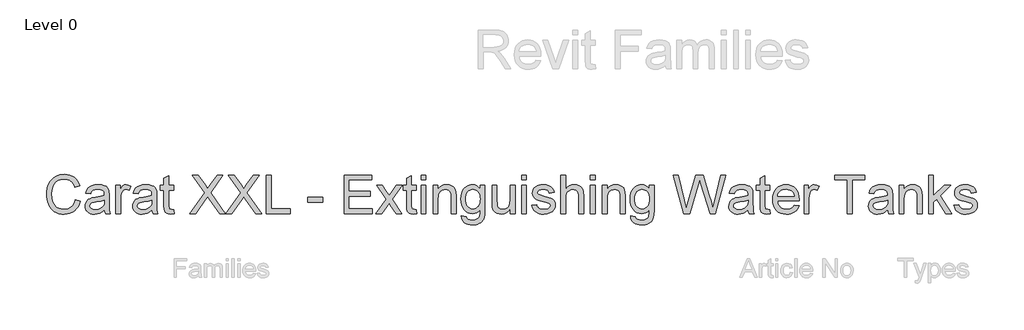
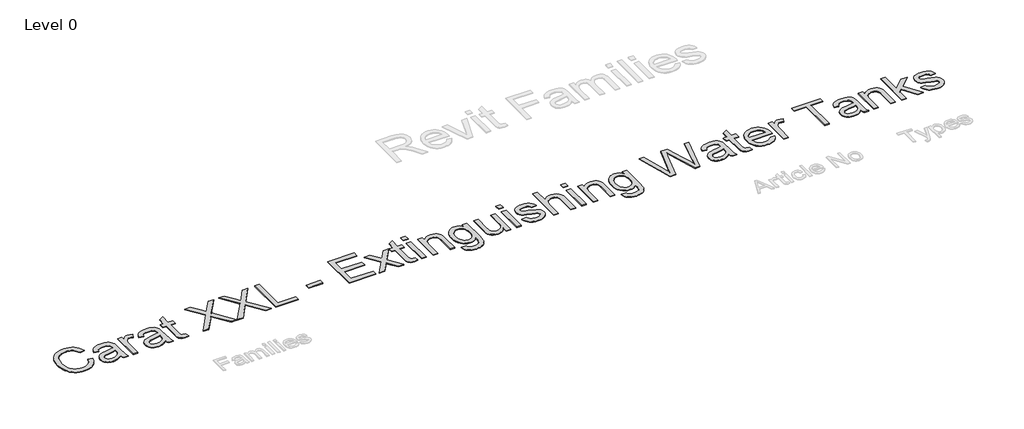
# One storey, part 35 of 37: 1 proxy.
"""IFC4 building model written with IfcOpenShell, lengths in millimetres."""

from ifc_helpers import new_model, si_unit, origin, origin_with_axes, place, context, project, spatial, polyline, outline, extrude, element, save

model = new_model("IFC4")

# Units and contexts
model_context = context("Model", 3, world=origin())
ifc_project = project(units=[si_unit("LENGTHUNIT", "METRE", prefix="MILLI")], contexts=[model_context])

# Site, building, storey
site = spatial("IfcSite", under=ifc_project)
building = spatial("IfcBuilding", under=site)
storey = spatial("IfcBuildingStorey", under=building, Name="Level 0", Elevation=0.0)

# Proxy
placement = place(None, origin())
element("IfcBuildingElementProxy", 1, Name="600mm Arial", ObjectType="600mm Arial", at=placement, inside=storey, context=model_context, shape_type="SweptSolid", body=[
    extrude(outline(polyline([(-16925.4984397, 1868.0819293), (-16850.1562071, 1848.65776), (-16865.0646249, 1801.8033894), (-16884.9210556, 1760.8627218), (-16909.7254991, 1725.8357574), (-16939.4779555, 1696.722496), (-16973.50704, 1673.8356373), (-17011.1413681, 1657.4878812), (-17052.3809398, 1647.6792275), (-17097.225755, 1644.4096763), (-17143.1696177, 1646.8836827), (-17184.616123, 1654.3057019), (-17221.5652709, 1666.675734), (-17254.0170614, 1683.9937789), (-17282.4175514, 1706.0023193), (-17307.2127979, 1732.4438377), (-17328.4028008, 1763.3183341), (-17345.9875602, 1798.6258086), (-17359.7969306, 1836.8395509), (-17369.6607665, 1876.4328506), (-17375.5790681, 1917.4057078), (-17377.5518353, 1959.7581225), (-17375.3215507, 2005.200746), (-17368.630697, 2047.6451312), (-17357.479274, 2087.0912781), (-17341.8672818, 2123.5391868), (-17322.1442083, 2156.3864504), (-17298.6595415, 2185.0306623), (-17271.4132812, 2209.4718223), (-17240.4054275, 2229.7099306), (-17206.6890427, 2245.5794402), (-17171.3171888, 2256.9148041), (-17134.289866, 2263.7160225), (-17095.6070742, 2265.9830953), (-17052.514297, 2263.0492364), (-17012.9991722, 2254.2476597), (-16977.0616998, 2239.5783651), (-16944.7018798, 2219.0413527), (-16916.4531411, 2193.1792485), (-16892.8489126, 2162.5346783), (-16873.8891943, 2127.1076421), (-16859.5739861, 2086.8981401), (-16934.9162187, 2068.9454987), (-16946.7804131, 2098.5737949), (-16961.0358404, 2123.8886747), (-16977.6825007, 2144.8901381), (-16996.7203939, 2161.5781851), (-17018.2598848, 2174.2931065), (-17042.4113377, 2183.3751933), (-17069.1747529, 2188.8244453), (-17098.5501302, 2190.6408627), (-17132.3492885, 2188.6267088), (-17163.2605732, 2182.584247), (-17191.2839841, 2172.5134774), (-17216.4195215, 2158.4143999), (-17238.3498869, 2140.921611), (-17256.7577822, 2120.6697072), (-17271.6432075, 2097.6586884), (-17283.0061626, 2071.8885547), (-17297.4087427, 2016.7430436), (-17302.2096027, 1959.9052753), (-17296.5258259, 1890.3020018), (-17289.4211049, 1859.0320322), (-17279.4744954, 1830.1165074), (-17266.5250492, 1804.130243), (-17250.4118178, 1781.6480546), (-17231.1348013, 1762.6699421), (-17208.6939996, 1747.1959057), (-17184.1792631, 1735.1891571), (-17158.6804423, 1726.6129081), (-17132.1975372, 1721.4671587), (-17104.7305477, 1719.7519089), (-17071.9752546, 1722.0879595), (-17041.8411206, 1729.0961115), (-17014.3281459, 1740.7763649), (-16989.4363304, 1757.1287196), (-16967.7542853, 1778.0795992), (-16949.8706219, 1803.5554274), (-16935.78534, 1833.5562041), (-16925.4984397, 1868.0819293)])), origin_with_axes(), (0.0, 0.0, 1.0), 10.0),
    extrude(outline(polyline([(-16473.445044, 1710.3341298), (-16509.4422972, 1679.4688304), (-16546.5064082, 1659.2721089), (-16585.4835056, 1648.1252844), (-16627.219718, 1644.4096763), (-16660.7659574, 1646.6445594), (-16690.1827215, 1653.3492087), (-16715.4700101, 1664.5236243), (-16736.6278233, 1680.1678062), (-16753.3342645, 1699.2884729), (-16765.2674367, 1720.8923431), (-16772.42734, 1744.9794167), (-16774.8139744, 1771.5496938), (-16771.2087309, 1802.7828752), (-16760.3930002, 1831.146577), (-16743.7095518, 1855.4267887), (-16722.5011547, 1874.4094996), (-16697.5771496, 1888.7568975), (-16669.7468766, 1899.1311697), (-16604.5581871, 1910.4619352), (-16527.5236973, 1922.3813118), (-16473.8865024, 1936.3608276), (-16473.445044, 1953.1362466), (-16478.6321801, 1986.760661), (-16485.1161003, 1999.2134665), (-16494.1935885, 2008.7600043), (-16509.8837556, 2018.288148), (-16528.9952253, 2025.0939649), (-16577.4820722, 2030.5386184), (-16622.3636756, 2026.9149807), (-16653.7072216, 2016.0440678), (-16675.0811656, 1995.9393167), (-16690.0539628, 1964.6141649), (-16765.3961954, 1974.0319439), (-16752.3179904, 2015.2347274), (-16732.8018506, 2047.608343), (-16705.02676, 2072.3668012), (-16667.1717027, 2090.7241128), (-16620.8737536, 2102.0916665), (-16567.7699876, 2105.880851), (-16516.8367253, 2102.5331249), (-16476.4616764, 2092.4899464), (-16446.0194413, 2077.3883905), (-16424.8846206, 2058.865532), (-16410.8683166, 2035.9648778), (-16401.7816313, 2007.7299347), (-16398.1028114, 1941.8054812), (-16398.1028114, 1848.0691488), (-16394.2768386, 1717.1767349), (-16388.6114559, 1684.8215134), (-16379.2672532, 1653.8274553), (-16454.6094858, 1653.8274553), (-16466.6760153, 1680.0206534), (-16473.445044, 1710.3341298)]), holes=[polyline([(-16473.445044, 1861.018595), (-16524.0656065, 1848.473819), (-16594.9932552, 1837.9156057), (-16659.8140628, 1825.7019235), (-16676.6814522, 1817.3510022), (-16689.171046, 1805.8362957), (-16696.8965679, 1792.0407209), (-16699.4717418, 1776.8471945), (-16693.8615414, 1754.443181), (-16677.0309401, 1736.0858695), (-16649.34782, 1723.835399), (-16611.180063, 1719.7519089), (-16570.7130435, 1724.2584633), (-16534.9549136, 1737.7781266), (-16505.9658124, 1757.6989367), (-16485.805879, 1781.4089313), (-16476.8663466, 1805.8362957), (-16473.8865024, 1839.6814393), (-16473.445044, 1861.018595)])]), origin_with_axes(), (0.0, 0.0, 1.0), 10.0),
    extrude(outline(polyline([(-16294.5072415, 1653.8274553), (-16294.5072415, 2096.4630719), (-16228.582788, 2096.4630719), (-16228.582788, 2030.9800768), (-16204.2289999, 2068.9454987), (-16181.7881982, 2091.312724), (-16159.2738201, 2102.2388193), (-16134.6993028, 2105.880851), (-16097.1753393, 2100.0683155), (-16059.0627646, 2082.6307089), (-16084.2258931, 2015.0875746), (-16110.7133968, 2026.6758574), (-16137.2009004, 2030.5386184), (-16159.6968844, 2026.8230102), (-16179.8016354, 2015.6761858), (-16196.0436255, 1997.9442736), (-16206.9513267, 1974.4734023), (-16216.1115884, 1932.3877021), (-16219.1650089, 1886.4760291), (-16219.1650089, 1653.8274553), (-16294.5072415, 1653.8274553)])), origin_with_axes(), (0.0, 0.0, 1.0), 10.0),
    extrude(outline(polyline([(-15729.440497, 1710.3341298), (-15765.4377502, 1679.4688304), (-15802.5018612, 1659.2721089), (-15841.4789586, 1648.1252844), (-15883.2151709, 1644.4096763), (-15916.7614104, 1646.6445594), (-15946.1781744, 1653.3492087), (-15971.4654631, 1664.5236243), (-15992.6232763, 1680.1678062), (-16009.3297174, 1699.2884729), (-16021.2628896, 1720.8923431), (-16028.422793, 1744.9794167), (-16030.8094274, 1771.5496938), (-16027.2041838, 1802.7828752), (-16016.3884532, 1831.146577), (-15999.7050047, 1855.4267887), (-15978.4966077, 1874.4094996), (-15953.5726025, 1888.7568975), (-15925.7423296, 1899.1311697), (-15860.55364, 1910.4619352), (-15783.5191502, 1922.3813118), (-15729.8819553, 1936.3608276), (-15729.440497, 1953.1362466), (-15734.6276331, 1986.760661), (-15741.1115533, 1999.2134665), (-15750.1890415, 2008.7600043), (-15765.8792086, 2018.288148), (-15784.9906782, 2025.0939649), (-15833.4775252, 2030.5386184), (-15878.3591286, 2026.9149807), (-15909.7026746, 2016.0440678), (-15931.0766185, 1995.9393167), (-15946.0494157, 1964.6141649), (-16021.3916483, 1974.0319439), (-16008.3134434, 2015.2347274), (-15988.7973036, 2047.608343), (-15961.0222129, 2072.3668012), (-15923.1671556, 2090.7241128), (-15876.8692065, 2102.0916665), (-15823.7654405, 2105.880851), (-15772.8321783, 2102.5331249), (-15732.4571293, 2092.4899464), (-15702.0148942, 2077.3883905), (-15680.8800736, 2058.865532), (-15666.8637696, 2035.9648778), (-15657.7770843, 2007.7299347), (-15654.0982643, 1941.8054812), (-15654.0982643, 1848.0691488), (-15650.2722916, 1717.1767349), (-15644.6069089, 1684.8215134), (-15635.2627062, 1653.8274553), (-15710.6049388, 1653.8274553), (-15722.6714682, 1680.0206534), (-15729.440497, 1710.3341298)]), holes=[polyline([(-15729.440497, 1861.018595), (-15780.0610595, 1848.473819), (-15850.9887082, 1837.9156057), (-15915.8095157, 1825.7019235), (-15932.6769052, 1817.3510022), (-15945.1664989, 1805.8362957), (-15952.8920208, 1792.0407209), (-15955.4671948, 1776.8471945), (-15949.8569944, 1754.443181), (-15933.0263931, 1736.0858695), (-15905.3432729, 1723.835399), (-15867.1755159, 1719.7519089), (-15826.7084965, 1724.2584633), (-15790.9503665, 1737.7781266), (-15761.9612653, 1757.6989367), (-15741.801332, 1781.4089313), (-15732.8617995, 1805.8362957), (-15729.8819553, 1839.6814393), (-15729.440497, 1861.018595)])]), origin_with_axes(), (0.0, 0.0, 1.0), 10.0),
    extrude(outline(polyline([(-15390.4004502, 1716.6617001), (-15380.9826711, 1651.6201634), (-15437.3421928, 1644.4096763), (-15473.5049929, 1647.5366732), (-15500.4707432, 1656.9176641), (-15519.5270305, 1671.3754265), (-15531.9614419, 1689.7327381), (-15538.8040471, 1721.2602251), (-15541.0849154, 1775.2285137), (-15541.0849154, 2021.1208393), (-15597.5915899, 2021.1208393), (-15597.5915899, 2096.4630719), (-15541.0849154, 2096.4630719), (-15541.0849154, 2204.0317673), (-15465.7426828, 2248.3247595), (-15465.7426828, 2096.4630719), (-15390.4004502, 2096.4630719), (-15390.4004502, 2021.1208393), (-15465.7426828, 2021.1208393), (-15465.7426828, 1777.4358057), (-15461.7695573, 1738.587467), (-15448.8936874, 1724.8286804), (-15438.0227745, 1721.0211018), (-15423.2155242, 1719.7519089), (-15390.4004502, 1716.6617001)])), origin_with_axes(), (0.0, 0.0, 1.0), 10.0),
    extrude(outline(polyline([(-15136.1204151, 1653.8274553), (-14903.766147, 1982.2725006), (-15098.4492988, 2256.5653162), (-15008.0974808, 2256.5653162), (-14898.4686462, 2102.2020311), (-14872.3122364, 2063.096175), (-14861.5332939, 2042.0165366), (-14818.2703713, 2103.2321006), (-14709.8187591, 2256.5653162), (-14618.1425659, 2256.5653162), (-14812.8257178, 1981.3895838), (-14580.4714496, 1653.8274553), (-14670.8232676, 1653.8274553), (-14825.6280112, 1872.2022077), (-14857.854474, 1917.5252695), (-14893.3182983, 1867.7876237), (-15044.4442219, 1653.8274553), (-15136.1204151, 1653.8274553)])), origin_with_axes(), (0.0, 0.0, 1.0), 10.0),
    extrude(outline(polyline([(-14571.0536705, 1653.8274553), (-14338.6994024, 1982.2725006), (-14533.3825542, 2256.5653162), (-14443.0307362, 2256.5653162), (-14333.4019017, 2102.2020311), (-14307.2454918, 2063.096175), (-14296.4665493, 2042.0165366), (-14253.2036267, 2103.2321006), (-14144.7520145, 2256.5653162), (-14053.0758213, 2256.5653162), (-14247.7589732, 1981.3895838), (-14015.404705, 1653.8274553), (-14105.756523, 1653.8274553), (-14260.5612666, 1872.2022077), (-14292.7877294, 1917.5252695), (-14328.2515537, 1867.7876237), (-14479.3774773, 1653.8274553), (-14571.0536705, 1653.8274553)])), origin_with_axes(), (0.0, 0.0, 1.0), 10.0),
    extrude(outline(polyline([(-13940.0624724, 1653.8274553), (-13940.0624724, 2256.5653162), (-13864.7202398, 2256.5653162), (-13864.7202398, 1729.1696879), (-13563.3513094, 1729.1696879), (-13563.3513094, 1653.8274553), (-13940.0624724, 1653.8274553)])), origin_with_axes(), (0.0, 0.0, 1.0), 10.0),
    extrude(outline(polyline([(-13290.2357161, 1832.7652578), (-13290.2357161, 1908.1074904), (-13054.7912392, 1908.1074904), (-13054.7912392, 1832.7652578), (-13290.2357161, 1832.7652578)])), origin_with_axes(), (0.0, 0.0, 1.0), 10.0),
    extrude(outline(polyline([(-12725.1689715, 1653.8274553), (-12725.1689715, 2256.5653162), (-12291.951134, 2256.5653162), (-12291.951134, 2181.2230836), (-12649.8267389, 2181.2230836), (-12649.8267389, 2002.2852812), (-12310.7866922, 2002.2852812), (-12310.7866922, 1926.9430486), (-12649.8267389, 1926.9430486), (-12649.8267389, 1729.1696879), (-12282.5333549, 1729.1696879), (-12282.5333549, 1653.8274553), (-12725.1689715, 1653.8274553)])), origin_with_axes(), (0.0, 0.0, 1.0), 10.0),
    extrude(outline(polyline([(-12226.0266805, 1653.8274553), (-12065.0415194, 1876.322486), (-12216.6089014, 2096.4630719), (-12125.9627778, 2096.4630719), (-12052.8278372, 1990.5130573), (-12018.688388, 1940.481106), (-11989.1106756, 1981.3895838), (-11905.8221919, 2096.4630719), (-11815.1760683, 2096.4630719), (-11974.3953958, 1876.322486), (-11821.0621802, 1653.8274553), (-11911.7083038, 1653.8274553), (-12003.9731082, 1787.5893488), (-12020.89568, 1812.0167133), (-12135.3805569, 1653.8274553), (-12226.0266805, 1653.8274553)])), origin_with_axes(), (0.0, 0.0, 1.0), 10.0),
    extrude(outline(polyline([(-11595.0354824, 1716.6617001), (-11585.6177033, 1651.6201634), (-11641.9772249, 1644.4096763), (-11678.1400251, 1647.5366732), (-11705.1057753, 1656.9176641), (-11724.1620627, 1671.3754265), (-11736.5964741, 1689.7327381), (-11743.4390792, 1721.2602251), (-11745.7199476, 1775.2285137), (-11745.7199476, 2021.1208393), (-11802.226622, 2021.1208393), (-11802.226622, 2096.4630719), (-11745.7199476, 2096.4630719), (-11745.7199476, 2204.0317673), (-11670.377715, 2248.3247595), (-11670.377715, 2096.4630719), (-11595.0354824, 2096.4630719), (-11595.0354824, 2021.1208393), (-11670.377715, 2021.1208393), (-11670.377715, 1777.4358057), (-11666.4045894, 1738.587467), (-11653.5287196, 1724.8286804), (-11642.6578066, 1721.0211018), (-11627.8505563, 1719.7519089), (-11595.0354824, 1716.6617001)])), origin_with_axes(), (0.0, 0.0, 1.0), 10.0),
    extrude(outline(polyline([(-11519.6932497, 1653.8274553), (-11519.6932497, 2096.4630719), (-11444.3510171, 2096.4630719), (-11444.3510171, 1653.8274553), (-11519.6932497, 1653.8274553)])), origin_with_axes(), (0.0, 0.0, 1.0), 10.0),
    extrude(outline(polyline([(-11519.6932497, 2181.2230836), (-11519.6932497, 2256.5653162), (-11444.3510171, 2256.5653162), (-11444.3510171, 2181.2230836), (-11519.6932497, 2181.2230836)])), origin_with_axes(), (0.0, 0.0, 1.0), 10.0),
    extrude(outline(polyline([(-11331.3376682, 1653.8274553), (-11331.3376682, 2096.4630719), (-11255.9954356, 2096.4630719), (-11255.9954356, 2034.6588967), (-11229.8206316, 2065.8185017), (-11198.3851152, 2088.0753624), (-11161.6888861, 2101.4294789), (-11119.7319446, 2105.880851), (-11082.5942572, 2102.2940016), (-11048.5835667, 2091.5334532), (-11020.2198649, 2074.9419752), (-11000.0231434, 2053.8623369), (-10986.319539, 2028.3497205), (-10977.4351889, 1998.4593084), (-10973.4620633, 1925.6186734), (-10973.4620633, 1653.8274553), (-11048.8042959, 1653.8274553), (-11048.8042959, 1915.4651303), (-11050.9747997, 1954.4238336), (-11057.486311, 1982.1253478), (-11069.4976581, 2001.9725815), (-11088.1676694, 2017.368443), (-11112.0983932, 2027.2460745), (-11139.8918779, 2030.5386184), (-11162.7695395, 2028.6900114), (-11184.0193232, 2023.1441903), (-11203.6412292, 2013.9011552), (-11221.6352573, 2000.960906), (-11236.6678353, 1982.8519148), (-11247.405391, 1958.1026535), (-11253.8479245, 1926.7131223), (-11255.9954356, 1888.6833211), (-11255.9954356, 1653.8274553), (-11331.3376682, 1653.8274553)])), origin_with_axes(), (0.0, 0.0, 1.0), 10.0),
    extrude(outline(polyline([(-10888.7020516, 1616.156339), (-10813.359819, 1606.73856), (-10805.0456859, 1583.1941123), (-10788.9324545, 1567.0073045), (-10757.2578147, 1554.4257402), (-10715.7975139, 1550.2318855), (-10671.5780981, 1554.9775632), (-10653.7174272, 1560.9096604), (-10638.6894477, 1569.2145964), (-10615.880764, 1592.0232801), (-10601.9012482, 1622.4839093), (-10597.817758, 1654.8943131), (-10596.7509002, 1710.3341298), (-10621.8220582, 1685.6124597), (-10649.799484, 1667.9541239), (-10680.6831774, 1657.3591225), (-10714.4731387, 1653.8274553), (-10755.7816882, 1657.9385366), (-10792.151422, 1670.2717805), (-10823.5823399, 1690.827187), (-10850.0744421, 1719.6047561), (-10871.0942996, 1754.1304813), (-10886.1084836, 1791.9303563), (-10895.1169939, 1833.0043811), (-10898.1198307, 1877.3525556), (-10892.7303595, 1938.1818435), (-10876.5619458, 1994.1183009), (-10864.5781898, 2019.3412102), (-10850.1848067, 2041.519896), (-10833.3817966, 2060.6543582), (-10814.1691594, 2076.744597), (-10792.8549963, 2089.4917081), (-10769.7474085, 2098.5967875), (-10744.8463959, 2104.0598351), (-10718.1519587, 2105.880851), (-10682.9180606, 2101.7605727), (-10650.9399181, 2089.3997376), (-10622.2175314, 2068.7983459), (-10596.7509002, 2039.9563975), (-10596.7509002, 2096.4630719), (-10521.4086676, 2096.4630719), (-10521.4086676, 1714.3072553), (-10526.5590156, 1626.0707588), (-10532.9969505, 1593.2510863), (-10542.0100594, 1567.9637977), (-10553.8144729, 1547.5693396), (-10568.6263217, 1529.4281587), (-10586.4456059, 1513.540255), (-10607.2723253, 1499.9056286), (-10630.8949479, 1488.9611392), (-10657.1019416, 1481.1436468), (-10685.8933062, 1476.4531514), (-10717.2690419, 1474.8896529), (-10754.1814016, 1477.0923463), (-10787.368956, 1483.7004267), (-10816.8317053, 1494.7138939), (-10842.5696494, 1510.132748), (-10863.3595807, 1529.9753831), (-10877.9782915, 1554.2601933), (-10886.4257818, 1582.9871786), (-10888.7020516, 1616.156339)]), holes=[polyline([(-10822.7775981, 1882.5029035), (-10820.7680427, 1845.250253), (-10814.7393765, 1813.3962707), (-10804.6915995, 1786.9409568), (-10790.6247117, 1765.8843111), (-10773.5227975, 1749.8216635), (-10754.3699411, 1738.3483437), (-10733.1661426, 1731.4643519), (-10709.911402, 1729.1696879), (-10686.8865876, 1731.4505563), (-10665.7839566, 1738.2931614), (-10646.6035091, 1749.6975033), (-10629.345245, 1765.6635819), (-10615.0852192, 1786.5132939), (-10604.8994864, 1812.5685363), (-10598.7880468, 1843.8293088), (-10596.7509002, 1880.2956116), (-10598.8478276, 1915.2398026), (-10605.1386097, 1945.6130598), (-10615.6232466, 1971.4153832), (-10630.3017382, 1992.6467729), (-10647.9324828, 2009.2244553), (-10667.2738787, 2021.065657), (-10688.3259259, 2028.1703781), (-10711.0886243, 2030.5386184), (-10733.4696452, 2028.2071663), (-10754.1124237, 2021.2128098), (-10773.0169597, 2009.5555491), (-10790.1832533, 1993.2353841), (-10804.4432791, 1972.3258912), (-10814.6290119, 1946.9006468), (-10820.7404515, 1916.9596509), (-10822.7775981, 1882.5029035)])]), origin_with_axes(), (0.0, 0.0, 1.0), 10.0),
    extrude(outline(polyline([(-10125.8619464, 1653.8274553), (-10125.8619464, 1729.9054519), (-10153.1220023, 1692.5010501), (-10184.8702184, 1665.7836202), (-10221.106595, 1649.7531622), (-10261.8311318, 1644.4096763), (-10298.5273609, 1648.1620726), (-10332.6852041, 1659.4192617), (-10361.3432115, 1676.3418334), (-10381.5399331, 1697.090378), (-10395.1331728, 1722.2902946), (-10403.9807348, 1752.5669828), (-10408.3953187, 1822.6117147), (-10408.3953187, 2096.4630719), (-10333.0530861, 2096.4630719), (-10333.0530861, 1858.0755391), (-10331.9126519, 1810.3980325), (-10328.4913494, 1781.2617785), (-10317.5100718, 1755.6387975), (-10298.6929078, 1736.1594459), (-10273.290656, 1723.8537931), (-10242.5541153, 1719.7519089), (-10210.051741, 1723.9457636), (-10179.6462941, 1736.5273279), (-10154.5751361, 1756.3377733), (-10138.0756287, 1782.2182717), (-10128.915367, 1817.6637019), (-10125.8619464, 1866.168943), (-10125.8619464, 2096.4630719), (-10050.5197138, 2096.4630719), (-10050.5197138, 1653.8274553), (-10125.8619464, 1653.8274553)])), origin_with_axes(), (0.0, 0.0, 1.0), 10.0),
    extrude(outline(polyline([(-9946.924144, 2181.2230836), (-9946.924144, 2256.5653162), (-9871.5819114, 2256.5653162), (-9871.5819114, 2181.2230836), (-9946.924144, 2181.2230836)])), origin_with_axes(), (0.0, 0.0, 1.0), 10.0),
    extrude(outline(polyline([(-9946.924144, 1653.8274553), (-9946.924144, 2096.4630719), (-9871.5819114, 2096.4630719), (-9871.5819114, 1653.8274553), (-9946.924144, 1653.8274553)])), origin_with_axes(), (0.0, 0.0, 1.0), 10.0),
    extrude(outline(polyline([(-9786.8218997, 1785.6763624), (-9711.4796671, 1795.0941415), (-9706.9271274, 1777.9140523), (-9699.5970786, 1762.8676787), (-9689.4895208, 1749.9550207), (-9676.6044539, 1739.1760782), (-9660.9050898, 1730.6780041), (-9642.3546402, 1724.6079512), (-9596.7004846, 1719.7519089), (-9551.5981519, 1724.203281), (-9534.0685749, 1729.7674962), (-9519.886724, 1737.5573974), (-9501.1247422, 1756.9079904), (-9496.4342468, 1767.7421151), (-9494.8707483, 1779.3487921), (-9496.4434438, 1789.5207293), (-9501.1615304, 1798.5522322), (-9520.0338768, 1813.1939356), (-9548.2504258, 1822.7588675), (-9597.5834013, 1834.6782442), (-9666.3405462, 1854.562266), (-9711.0382087, 1871.5400201), (-9739.7513984, 1890.0628785), (-9760.5551252, 1914.5822135), (-9773.1918717, 1943.5345265), (-9777.4041206, 1975.3563191), (-9774.0196062, 2004.5477554), (-9763.8660632, 2031.4951116), (-9747.8631964, 2055.1315298), (-9726.9307109, 2074.3901522), (-9706.126984, 2086.511864), (-9679.0324751, 2096.6838011), (-9647.7073232, 2103.5815885), (-9614.2116675, 2105.880851), (-9565.1729976, 2102.183637), (-9522.5354743, 2091.0919948), (-9488.2488724, 2073.6911764), (-9464.2629663, 2051.0664337), (-9448.3704641, 2021.5439036), (-9438.3640738, 1983.449723), (-9513.7063064, 1974.0319439), (-9523.216056, 1997.7419385), (-9542.0332201, 2015.6026094), (-9570.3417396, 2026.8046161), (-9608.3255556, 2030.5386184), (-9651.5884782, 2026.970163), (-9680.4304267, 2016.264797), (-9696.6540226, 2000.8137532), (-9702.061888, 1983.0082646), (-9699.8178078, 1971.4199818), (-9693.0855673, 1961.0824977), (-9681.5708608, 1951.8486596), (-9664.9793829, 1944.4542315), (-9600.0849989, 1928.4145765), (-9489.4996712, 1892.9507522), (-9460.2898407, 1875.9913922), (-9438.1433446, 1852.7780383), (-9424.1822229, 1823.2371141), (-9419.5285157, 1787.2950432), (-9424.9915633, 1750.1389617), (-9441.3807062, 1715.1901721), (-9468.0705449, 1685.1893954), (-9504.4356802, 1662.8773524), (-9548.3607904, 1649.0265953), (-9597.7305541, 1644.4096763), (-9638.2803471, 1646.6353623), (-9673.6981861, 1653.3124205), (-9703.9840714, 1664.4408509), (-9729.1380028, 1680.0206534), (-9749.6842123, 1699.9782516), (-9766.1469315, 1724.2400692), (-9778.5261607, 1752.8061061), (-9786.8218997, 1785.6763624)])), origin_with_axes(), (0.0, 0.0, 1.0), 10.0),
    extrude(outline(polyline([(-9334.768504, 1653.8274553), (-9334.768504, 2256.5653162), (-9259.4262714, 2256.5653162), (-9259.4262714, 2034.9532023), (-9231.7523483, 2065.9840486), (-9200.6755168, 2088.1489388), (-9166.1957768, 2101.447873), (-9128.3131283, 2105.880851), (-9082.8061255, 2101.0432028), (-9043.7002694, 2086.5302581), (-9012.9085464, 2063.4824511), (-8992.3439429, 2033.040216), (-8980.75566, 1991.2120331), (-8976.8928991, 1934.0063829), (-8976.8928991, 1653.8274553), (-9052.2351317, 1653.8274553), (-9052.2351317, 1926.2072846), (-9053.7342508, 1951.6463245), (-9058.2316082, 1973.3697563), (-9065.7272039, 1991.37758), (-9076.2210378, 2005.6697955), (-9089.4647896, 2016.5499055), (-9105.210139, 2024.3214127), (-9123.457086, 2028.984317), (-9144.2056305, 2030.5386184), (-9176.0458172, 2026.3447637), (-9205.9362293, 2013.7631994), (-9230.6946876, 1994.0079363), (-9247.1390127, 1968.2929848), (-9256.3544567, 1934.1167475), (-9259.4262714, 1888.9776267), (-9259.4262714, 1653.8274553), (-9334.768504, 1653.8274553)])), origin_with_axes(), (0.0, 0.0, 1.0), 10.0),
    extrude(outline(polyline([(-8873.2973292, 1653.8274553), (-8873.2973292, 2096.4630719), (-8797.9550966, 2096.4630719), (-8797.9550966, 1653.8274553), (-8873.2973292, 1653.8274553)])), origin_with_axes(), (0.0, 0.0, 1.0), 10.0),
    extrude(outline(polyline([(-8873.2973292, 2181.2230836), (-8873.2973292, 2256.5653162), (-8797.9550966, 2256.5653162), (-8797.9550966, 2181.2230836), (-8873.2973292, 2181.2230836)])), origin_with_axes(), (0.0, 0.0, 1.0), 10.0),
    extrude(outline(polyline([(-8684.9417477, 1653.8274553), (-8684.9417477, 2096.4630719), (-8609.5995151, 2096.4630719), (-8609.5995151, 2034.6588967), (-8583.4247111, 2065.8185017), (-8551.9891947, 2088.0753624), (-8515.2929656, 2101.4294789), (-8473.3360241, 2105.880851), (-8436.1983367, 2102.2940016), (-8402.1876462, 2091.5334532), (-8373.8239444, 2074.9419752), (-8353.6272229, 2053.8623369), (-8339.9236185, 2028.3497205), (-8331.0392684, 1998.4593084), (-8327.0661428, 1925.6186734), (-8327.0661428, 1653.8274553), (-8402.4083754, 1653.8274553), (-8402.4083754, 1915.4651303), (-8404.5788792, 1954.4238336), (-8411.0903905, 1982.1253478), (-8423.1017376, 2001.9725815), (-8441.7717489, 2017.368443), (-8465.7024727, 2027.2460745), (-8493.4959574, 2030.5386184), (-8516.373619, 2028.6900114), (-8537.6234027, 2023.1441903), (-8557.2453087, 2013.9011552), (-8575.2393368, 2000.960906), (-8590.2719148, 1982.8519148), (-8601.0094705, 1958.1026535), (-8607.452004, 1926.7131223), (-8609.5995151, 1888.6833211), (-8609.5995151, 1653.8274553), (-8684.9417477, 1653.8274553)])), origin_with_axes(), (0.0, 0.0, 1.0), 10.0),
    extrude(outline(polyline([(-8242.3061311, 1616.156339), (-8166.9638985, 1606.73856), (-8158.6497654, 1583.1941123), (-8142.536534, 1567.0073045), (-8110.8618942, 1554.4257402), (-8069.4015934, 1550.2318855), (-8025.1821776, 1554.9775632), (-8007.3215067, 1560.9096604), (-7992.2935272, 1569.2145964), (-7969.4848435, 1592.0232801), (-7955.5053277, 1622.4839093), (-7951.4218375, 1654.8943131), (-7950.3549797, 1710.3341298), (-7975.4261377, 1685.6124597), (-8003.4035634, 1667.9541239), (-8034.2872569, 1657.3591225), (-8068.0772182, 1653.8274553), (-8109.3857677, 1657.9385366), (-8145.7555015, 1670.2717805), (-8177.1864194, 1690.827187), (-8203.6785216, 1719.6047561), (-8224.6983791, 1754.1304813), (-8239.712563, 1791.9303563), (-8248.7210734, 1833.0043811), (-8251.7239102, 1877.3525556), (-8246.334439, 1938.1818435), (-8230.1660253, 1994.1183009), (-8218.1822693, 2019.3412102), (-8203.7888862, 2041.519896), (-8186.9858761, 2060.6543582), (-8167.7732389, 2076.744597), (-8146.4590758, 2089.4917081), (-8123.351488, 2098.5967875), (-8098.4504754, 2104.0598351), (-8071.7560382, 2105.880851), (-8036.5221401, 2101.7605727), (-8004.5439976, 2089.3997376), (-7975.8216109, 2068.7983459), (-7950.3549797, 2039.9563975), (-7950.3549797, 2096.4630719), (-7875.0127471, 2096.4630719), (-7875.0127471, 1714.3072553), (-7880.1630951, 1626.0707588), (-7886.60103, 1593.2510863), (-7895.6141389, 1567.9637977), (-7907.4185524, 1547.5693396), (-7922.2304012, 1529.4281587), (-7940.0496854, 1513.540255), (-7960.8764048, 1499.9056286), (-7984.4990274, 1488.9611392), (-8010.7060211, 1481.1436468), (-8039.4973857, 1476.4531514), (-8070.8731214, 1474.8896529), (-8107.7854811, 1477.0923463), (-8140.9730355, 1483.7004267), (-8170.4357848, 1494.7138939), (-8196.1737289, 1510.132748), (-8216.9636602, 1529.9753831), (-8231.582371, 1554.2601933), (-8240.0298613, 1582.9871786), (-8242.3061311, 1616.156339)]), holes=[polyline([(-8176.3816776, 1882.5029035), (-8174.3721222, 1845.250253), (-8168.343456, 1813.3962707), (-8158.295679, 1786.9409568), (-8144.2287912, 1765.8843111), (-8127.126877, 1749.8216635), (-8107.9740206, 1738.3483437), (-8086.7702221, 1731.4643519), (-8063.5154815, 1729.1696879), (-8040.4906671, 1731.4505563), (-8019.3880361, 1738.2931614), (-8000.2075886, 1749.6975033), (-7982.9493245, 1765.6635819), (-7968.6892987, 1786.5132939), (-7958.5035659, 1812.5685363), (-7952.3921263, 1843.8293088), (-7950.3549797, 1880.2956116), (-7952.4519071, 1915.2398026), (-7958.7426892, 1945.6130598), (-7969.2273261, 1971.4153832), (-7983.9058177, 1992.6467729), (-8001.5365623, 2009.2244553), (-8020.8779582, 2021.065657), (-8041.9300054, 2028.1703781), (-8064.6927038, 2030.5386184), (-8087.0737247, 2028.2071663), (-8107.7165032, 2021.2128098), (-8126.6210392, 2009.5555491), (-8143.7873328, 1993.2353841), (-8158.0473586, 1972.3258912), (-8168.2330914, 1946.9006468), (-8174.344531, 1916.9596509), (-8176.3816776, 1882.5029035)])]), origin_with_axes(), (0.0, 0.0, 1.0), 10.0),
    extrude(outline(polyline([(-7409.2741412, 1653.8274553), (-7573.6438167, 2256.5653162), (-7495.9471393, 2256.5653162), (-7400.5921262, 1860.4299838), (-7371.1615665, 1738.1460086), (-7339.6708677, 1846.3033152), (-7220.1827957, 2256.5653162), (-7108.1995164, 2256.5653162), (-7021.3793655, 1959.1695113), (-6984.1864958, 1848.8049128), (-6956.7792872, 1738.1460086), (-6928.2316443, 1856.8983167), (-6831.9937144, 2256.5653162), (-6754.297037, 2256.5653162), (-6918.8138653, 1653.8274553), (-6999.3064458, 1653.8274553), (-7143.8104935, 2118.8302972), (-7163.9704269, 2183.7246812), (-7186.6319578, 2105.5865454), (-7318.333712, 1653.8274553), (-7409.2741412, 1653.8274553)])), origin_with_axes(), (0.0, 0.0, 1.0), 10.0),
    extrude(outline(polyline([(-6405.8392112, 1710.3341298), (-6441.8364644, 1679.4688304), (-6478.9005754, 1659.2721089), (-6517.8776728, 1648.1252844), (-6559.6138852, 1644.4096763), (-6593.1601246, 1646.6445594), (-6622.5768887, 1653.3492087), (-6647.8641773, 1664.5236243), (-6669.0219905, 1680.1678062), (-6685.7284316, 1699.2884729), (-6697.6616039, 1720.8923431), (-6704.8215072, 1744.9794167), (-6707.2081416, 1771.5496938), (-6703.6028981, 1802.7828752), (-6692.7871674, 1831.146577), (-6676.1037189, 1855.4267887), (-6654.8953219, 1874.4094996), (-6629.9713168, 1888.7568975), (-6602.1410438, 1899.1311697), (-6536.9523543, 1910.4619352), (-6459.9178645, 1922.3813118), (-6406.2806696, 1936.3608276), (-6405.8392112, 1953.1362466), (-6411.0263473, 1986.760661), (-6417.5102675, 1999.2134665), (-6426.5877557, 2008.7600043), (-6442.2779228, 2018.288148), (-6461.3893925, 2025.0939649), (-6509.8762394, 2030.5386184), (-6554.7578428, 2026.9149807), (-6586.1013888, 2016.0440678), (-6607.4753327, 1995.9393167), (-6622.44813, 1964.6141649), (-6697.7903626, 1974.0319439), (-6684.7121576, 2015.2347274), (-6665.1960178, 2047.608343), (-6637.4209272, 2072.3668012), (-6599.5658699, 2090.7241128), (-6553.2679208, 2102.0916665), (-6500.1641548, 2105.880851), (-6449.2308925, 2102.5331249), (-6408.8558436, 2092.4899464), (-6378.4136085, 2077.3883905), (-6357.2787878, 2058.865532), (-6343.2624838, 2035.9648778), (-6334.1757985, 2007.7299347), (-6330.4969786, 1941.8054812), (-6330.4969786, 1848.0691488), (-6326.6710058, 1717.1767349), (-6321.0056231, 1684.8215134), (-6311.6614204, 1653.8274553), (-6387.003653, 1653.8274553), (-6399.0701825, 1680.0206534), (-6405.8392112, 1710.3341298)]), holes=[polyline([(-6405.8392112, 1861.018595), (-6456.4597737, 1848.473819), (-6527.3874224, 1837.9156057), (-6592.2082299, 1825.7019235), (-6609.0756194, 1817.3510022), (-6621.5652132, 1805.8362957), (-6629.2907351, 1792.0407209), (-6631.865909, 1776.8471945), (-6626.2557086, 1754.443181), (-6609.4251073, 1736.0858695), (-6581.7419872, 1723.835399), (-6543.5742302, 1719.7519089), (-6503.1072107, 1724.2584633), (-6467.3490808, 1737.7781266), (-6438.3599796, 1757.6989367), (-6418.2000462, 1781.4089313), (-6409.2605137, 1805.8362957), (-6406.2806696, 1839.6814393), (-6405.8392112, 1861.018595)])]), origin_with_axes(), (0.0, 0.0, 1.0), 10.0),
    extrude(outline(polyline([(-6066.7991644, 1716.6617001), (-6057.3813854, 1651.6201634), (-6113.740907, 1644.4096763), (-6149.9037071, 1647.5366732), (-6176.8694574, 1656.9176641), (-6195.9257447, 1671.3754265), (-6208.3601562, 1689.7327381), (-6215.2027613, 1721.2602251), (-6217.4836297, 1775.2285137), (-6217.4836297, 2021.1208393), (-6273.9903041, 2021.1208393), (-6273.9903041, 2096.4630719), (-6217.4836297, 2096.4630719), (-6217.4836297, 2204.0317673), (-6142.1413971, 2248.3247595), (-6142.1413971, 2096.4630719), (-6066.7991644, 2096.4630719), (-6066.7991644, 2021.1208393), (-6142.1413971, 2021.1208393), (-6142.1413971, 1777.4358057), (-6138.1682715, 1738.587467), (-6125.2924017, 1724.8286804), (-6114.4214887, 1721.0211018), (-6099.6142384, 1719.7519089), (-6066.7991644, 1716.6617001)])), origin_with_axes(), (0.0, 0.0, 1.0), 10.0),
    extrude(outline(polyline([(-5681.5531391, 1785.6763624), (-5607.6824345, 1776.2585833), (-5619.0086014, 1746.6716739), (-5634.2986968, 1720.5980375), (-5653.5527207, 1698.0376741), (-5676.7706732, 1678.9905838), (-5703.7134308, 1663.8614368), (-5734.1418703, 1653.0549031), (-5768.0559917, 1646.570983), (-5805.4557951, 1644.4096763), (-5852.2043996, 1648.13908), (-5893.8578385, 1659.3272912), (-5930.4161118, 1677.9743098), (-5961.8792194, 1704.0801359), (-5987.1803036, 1736.9182025), (-6005.2525066, 1775.7619426), (-6016.0958285, 1820.6113564), (-6019.7102691, 1871.4664437), (-6016.0590403, 1924.0459778), (-6005.1053538, 1970.3899122), (-5986.8492098, 2010.4982467), (-5961.2906082, 2044.3709814), (-5929.910274, 2071.2815494), (-5894.1889323, 2090.5033836), (-5854.126583, 2102.0364842), (-5809.7232262, 2105.880851), (-5766.7500106, 2102.0456812), (-5727.8878764, 2090.5401718), (-5693.1368234, 2071.3643228), (-5662.4968517, 2044.5181342), (-5637.4854746, 2010.7189759), (-5619.6202052, 1970.6842178), (-5608.9010436, 1924.4138598), (-5605.3279897, 1871.9079021), (-5605.7694481, 1851.6008159), (-5944.3680364, 1851.6008159), (-5940.0040363, 1821.5356599), (-5931.3266197, 1795.2045061), (-5918.3357868, 1772.6073545), (-5901.0315374, 1753.7442052), (-5880.3703649, 1738.8725756), (-5857.3087623, 1728.249983), (-5831.8467297, 1721.8764274), (-5803.9842671, 1719.7519089), (-5763.8851296, 1723.6882462), (-5730.1135625, 1735.4972583), (-5702.6695656, 1755.914709), (-5681.5531391, 1785.6763624)]), holes=[polyline([(-5944.3680364, 1926.9430486), (-5680.6702223, 1926.9430486), (-5690.8605536, 1966.7478804), (-5699.6253421, 1982.4012593), (-5710.8365459, 1995.2219469), (-5731.3827553, 2010.6729907), (-5754.7616561, 2021.7094505), (-5780.9732483, 2028.3313264), (-5810.0175318, 2030.5386184), (-5836.509634, 2028.7773833), (-5860.8036412, 2023.4936782), (-5882.8995536, 2014.6875029), (-5902.797371, 2002.3588576), (-5919.494615, 1987.0779592), (-5931.9888073, 1969.4150249), (-5940.2799478, 1949.3700547), (-5944.3680364, 1926.9430486)])]), origin_with_axes(), (0.0, 0.0, 1.0), 10.0),
    extrude(outline(polyline([(-5529.9857571, 1653.8274553), (-5529.9857571, 2096.4630719), (-5464.0613035, 2096.4630719), (-5464.0613035, 2030.9800768), (-5439.7075155, 2068.9454987), (-5417.2667138, 2091.312724), (-5394.7523356, 2102.2388193), (-5370.1778184, 2105.880851), (-5332.6538549, 2100.0683155), (-5294.5412802, 2082.6307089), (-5319.7044086, 2015.0875746), (-5346.1919123, 2026.6758574), (-5372.6794159, 2030.5386184), (-5395.1753999, 2026.8230102), (-5415.280151, 2015.6761858), (-5431.5221411, 1997.9442736), (-5442.4298422, 1974.4734023), (-5451.5901039, 1932.3877021), (-5454.6435245, 1886.4760291), (-5454.6435245, 1653.8274553), (-5529.9857571, 1653.8274553)])), origin_with_axes(), (0.0, 0.0, 1.0), 10.0),
    extrude(outline(polyline([(-4851.9056636, 1653.8274553), (-4851.9056636, 2181.2230836), (-5049.6790242, 2181.2230836), (-5049.6790242, 2256.5653162), (-4578.7900703, 2256.5653162), (-4578.7900703, 2181.2230836), (-4776.563431, 2181.2230836), (-4776.563431, 1653.8274553), (-4851.9056636, 1653.8274553)])), origin_with_axes(), (0.0, 0.0, 1.0), 10.0),
    extrude(outline(polyline([(-4220.9144654, 1710.3341298), (-4256.9117187, 1679.4688304), (-4293.9758297, 1659.2721089), (-4332.9529271, 1648.1252844), (-4374.6891394, 1644.4096763), (-4408.2353789, 1646.6445594), (-4437.6521429, 1653.3492087), (-4462.9394315, 1664.5236243), (-4484.0972448, 1680.1678062), (-4500.8036859, 1699.2884729), (-4512.7368581, 1720.8923431), (-4519.8967614, 1744.9794167), (-4522.2833959, 1771.5496938), (-4518.6781523, 1802.7828752), (-4507.8624217, 1831.146577), (-4491.1789732, 1855.4267887), (-4469.9705762, 1874.4094996), (-4445.046571, 1888.7568975), (-4417.2162981, 1899.1311697), (-4352.0276085, 1910.4619352), (-4274.9931187, 1922.3813118), (-4221.3559238, 1936.3608276), (-4220.9144654, 1953.1362466), (-4226.1016016, 1986.760661), (-4232.5855217, 1999.2134665), (-4241.66301, 2008.7600043), (-4257.3531771, 2018.288148), (-4276.4646467, 2025.0939649), (-4324.9514937, 2030.5386184), (-4369.8330971, 2026.9149807), (-4401.1766431, 2016.0440678), (-4422.550587, 1995.9393167), (-4437.5233842, 1964.6141649), (-4512.8656168, 1974.0319439), (-4499.7874119, 2015.2347274), (-4480.271272, 2047.608343), (-4452.4961814, 2072.3668012), (-4414.6411241, 2090.7241128), (-4368.343175, 2102.0916665), (-4315.239409, 2105.880851), (-4264.3061468, 2102.5331249), (-4223.9310978, 2092.4899464), (-4193.4888627, 2077.3883905), (-4172.3540421, 2058.865532), (-4158.3377381, 2035.9648778), (-4149.2510528, 2007.7299347), (-4145.5722328, 1941.8054812), (-4145.5722328, 1848.0691488), (-4141.7462601, 1717.1767349), (-4136.0808774, 1684.8215134), (-4126.7366747, 1653.8274553), (-4202.0789073, 1653.8274553), (-4214.1454367, 1680.0206534), (-4220.9144654, 1710.3341298)]), holes=[polyline([(-4220.9144654, 1861.018595), (-4271.535028, 1848.473819), (-4342.4626766, 1837.9156057), (-4407.2834842, 1825.7019235), (-4424.1508737, 1817.3510022), (-4436.6404674, 1805.8362957), (-4444.3659893, 1792.0407209), (-4446.9411633, 1776.8471945), (-4441.3309628, 1754.443181), (-4424.5003616, 1736.0858695), (-4396.8172414, 1723.835399), (-4358.6494844, 1719.7519089), (-4318.182465, 1724.2584633), (-4282.424335, 1737.7781266), (-4253.4352338, 1757.6989367), (-4233.2753005, 1781.4089313), (-4224.335768, 1805.8362957), (-4221.3559238, 1839.6814393), (-4220.9144654, 1861.018595)])]), origin_with_axes(), (0.0, 0.0, 1.0), 10.0),
    extrude(outline(polyline([(-4041.976663, 1653.8274553), (-4041.976663, 2096.4630719), (-3966.6344304, 2096.4630719), (-3966.6344304, 2034.6588967), (-3940.4596264, 2065.8185017), (-3909.0241099, 2088.0753624), (-3872.3278809, 2101.4294789), (-3830.3709394, 2105.880851), (-3793.2332519, 2102.2940016), (-3759.2225615, 2091.5334532), (-3730.8588597, 2074.9419752), (-3710.6621381, 2053.8623369), (-3696.9585338, 2028.3497205), (-3688.0741836, 1998.4593084), (-3684.1010581, 1925.6186734), (-3684.1010581, 1653.8274553), (-3759.4432907, 1653.8274553), (-3759.4432907, 1915.4651303), (-3761.6137945, 1954.4238336), (-3768.1253058, 1982.1253478), (-3780.1366529, 2001.9725815), (-3798.8066642, 2017.368443), (-3822.737388, 2027.2460745), (-3850.5308727, 2030.5386184), (-3873.4085343, 2028.6900114), (-3894.658318, 2023.1441903), (-3914.2802239, 2013.9011552), (-3932.274252, 2000.960906), (-3947.3068301, 1982.8519148), (-3958.0443858, 1958.1026535), (-3964.4869192, 1926.7131223), (-3966.6344304, 1888.6833211), (-3966.6344304, 1653.8274553), (-4041.976663, 1653.8274553)])), origin_with_axes(), (0.0, 0.0, 1.0), 10.0),
    extrude(outline(polyline([(-3580.5054882, 1653.8274553), (-3580.5054882, 2256.5653162), (-3505.1632556, 2256.5653162), (-3505.1632556, 1932.6820077), (-3336.2318434, 2096.4630719), (-3232.0476624, 2096.4630719), (-3403.0392138, 1930.6218685), (-3222.6298833, 1653.8274553), (-3310.6272566, 1653.8274553), (-3457.0442907, 1878.2354724), (-3505.1632556, 1831.5880354), (-3505.1632556, 1653.8274553), (-3580.5054882, 1653.8274553)])), origin_with_axes(), (0.0, 0.0, 1.0), 10.0),
    extrude(outline(polyline([(-3184.958767, 1785.6763624), (-3109.6165344, 1795.0941415), (-3105.0639947, 1777.9140523), (-3097.733946, 1762.8676787), (-3087.6263881, 1749.9550207), (-3074.7413213, 1739.1760782), (-3059.0419571, 1730.6780041), (-3040.4915075, 1724.6079512), (-2994.8373519, 1719.7519089), (-2949.7350193, 1724.203281), (-2932.2054422, 1729.7674962), (-2918.0235913, 1737.5573974), (-2899.2616096, 1756.9079904), (-2894.5711141, 1767.7421151), (-2893.0076156, 1779.3487921), (-2894.5803112, 1789.5207293), (-2899.2983978, 1798.5522322), (-2918.1707441, 1813.1939356), (-2946.3872931, 1822.7588675), (-2995.7202687, 1834.6782442), (-3064.4774136, 1854.562266), (-3109.175076, 1871.5400201), (-3137.8882657, 1890.0628785), (-3158.6919926, 1914.5822135), (-3171.3287391, 1943.5345265), (-3175.5409879, 1975.3563191), (-3172.1564736, 2004.5477554), (-3162.0029305, 2031.4951116), (-3146.0000637, 2055.1315298), (-3125.0675782, 2074.3901522), (-3104.2638514, 2086.511864), (-3077.1693424, 2096.6838011), (-3045.8441905, 2103.5815885), (-3012.3485349, 2105.880851), (-2963.3098649, 2102.183637), (-2920.6723417, 2091.0919948), (-2886.3857397, 2073.6911764), (-2862.3998337, 2051.0664337), (-2846.5073315, 2021.5439036), (-2836.5009412, 1983.449723), (-2911.8431738, 1974.0319439), (-2921.3529234, 1997.7419385), (-2940.1700874, 2015.6026094), (-2968.478607, 2026.8046161), (-3006.462423, 2030.5386184), (-3049.7253456, 2026.970163), (-3078.567294, 2016.264797), (-3094.79089, 2000.8137532), (-3100.1987553, 1983.0082646), (-3097.9546752, 1971.4199818), (-3091.2224346, 1961.0824977), (-3079.7077282, 1951.8486596), (-3063.1162502, 1944.4542315), (-2998.2218663, 1928.4145765), (-2887.6365385, 1892.9507522), (-2858.4267081, 1875.9913922), (-2836.280212, 1852.7780383), (-2822.3190903, 1823.2371141), (-2817.665383, 1787.2950432), (-2823.1284307, 1750.1389617), (-2839.5175736, 1715.1901721), (-2866.2074123, 1685.1893954), (-2902.5725475, 1662.8773524), (-2946.4976577, 1649.0265953), (-2995.8674215, 1644.4096763), (-3036.4172144, 1646.6353623), (-3071.8350535, 1653.3124205), (-3102.1209388, 1664.4408509), (-3127.2748702, 1680.0206534), (-3147.8210796, 1699.9782516), (-3164.2837989, 1724.2400692), (-3176.663028, 1752.8061061), (-3184.958767, 1785.6763624)])), origin_with_axes(), (0.0, 0.0, 1.0), 10.0),
])

save(model, "model.ifc")
